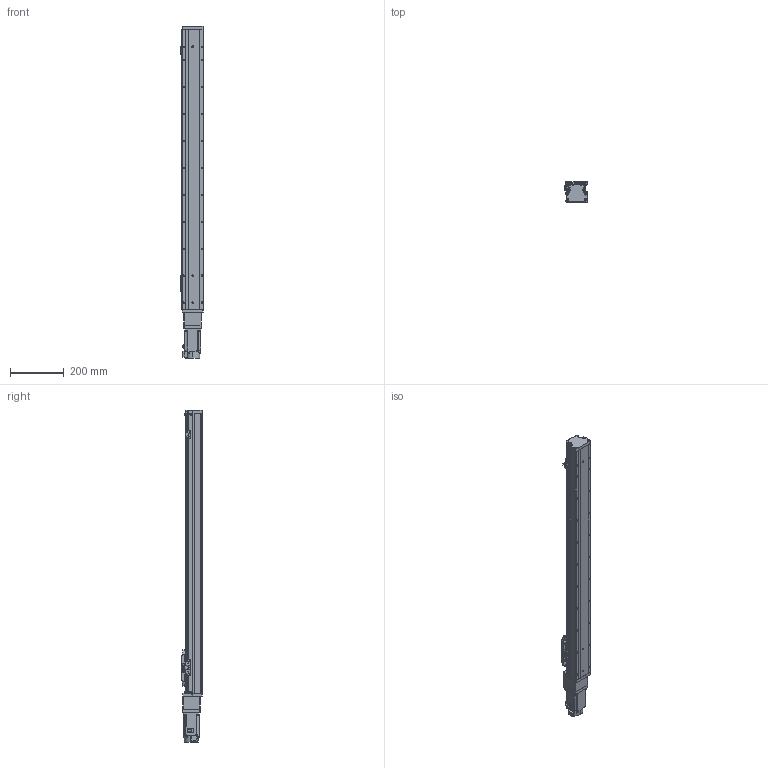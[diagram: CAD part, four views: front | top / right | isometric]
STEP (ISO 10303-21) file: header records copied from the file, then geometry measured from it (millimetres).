
FILE_DESCRIPTION (( 'STEP AP203' ), '1' );
FILE_NAME ('GTH8-850-BC-M20-C4.step', '2022-09-23T00:56:23', ( '微软用户' ), ( '微软中国' ), 'SwSTEP 2.0', 'SolidWorks 2020', '' );
FILE_SCHEMA (( 'CONFIG_CONTROL_DESIGN' ));
Length unit declared in the file: millimetre
Products named in the file (19): GTH80-004; GTH80-028; hg-kn43j_-s100_; GTH80-006; GTH50-024; GTH8-850-BC-M20-C4; GTH80-013; GTH50-023; GBT96.1-2002 3×0.8; GBT 70.3-M3℅6; BTH-M3X5X6; GTH80-022; CTHA86-006-1_CTHA86-006-2; GTH80-001_850; GBT 70.1-M3℅6; CTHA86-013; GTH80-003; GBT 70.1-M4×16; CTHA86-027
Assembly tree (60 placements, depth 2):
  GTH8-850-BC-M20-C4
    GTH80-001_850
    GTH80-003
    GTH80-004
    GTH80-006
    GTH80-013
    GBT 70.3-M3℅6  x6
    GTH80-022
    GBT 70.1-M3℅6  x14
    GBT 70.1-M4×16  x8
    GTH80-028  x2
    GTH50-024  x3
    GTH50-023  x3
    GBT96.1-2002 3×0.8  x6
    BTH-M3X5X6  x8
    CTHA86-006-1_CTHA86-006-2
    CTHA86-013
    CTHA86-027
    hg-kn43j_-s100_
Bounding box: 86.9 x 78 x 1232.7 mm (x, y, z)
Volume: 5310277.6 mm3; surface area: 532114.1 mm2
Topology: 62 solids, 62 shells, 2243 faces, 5164 edges, 3147 vertices
Faces by surface type: plane 1173, cylinder 613, cone 285, torus 162, sphere 8, bspline 2
Entity records: 39260 total; most frequent: CARTESIAN_POINT 6479, DIRECTION 6450, ORIENTED_EDGE 5918, EDGE_CURVE 2959, AXIS2_PLACEMENT_3D 2260, LINE 1930, VECTOR 1930, VERTEX_POINT 1860
